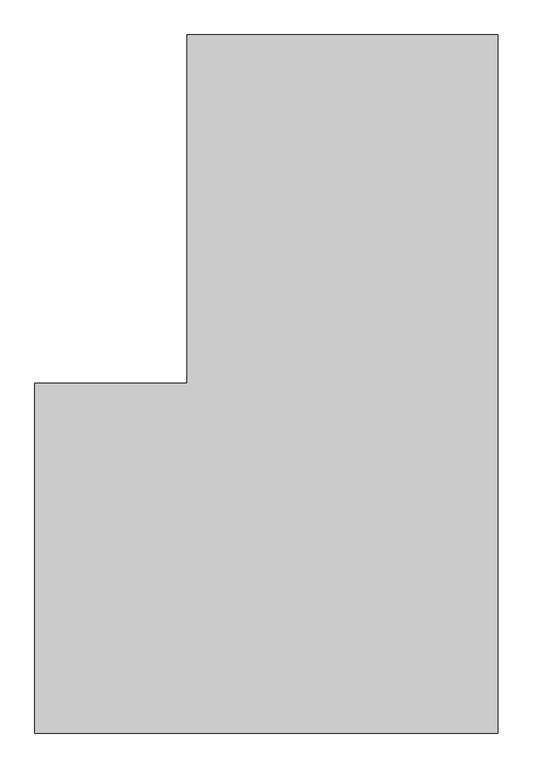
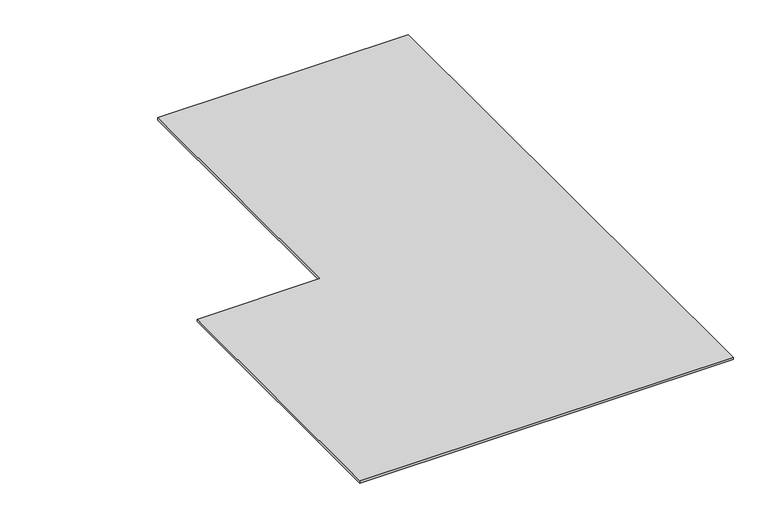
"""IFC4 building model written with IfcOpenShell, lengths in millimetres: proxy geometry, Фиброцементная плита LATONIT окрашенная в массе_1 прямоугольное отверстие : 10 мм."""

from ifc_helpers import new_model, si_unit, frame, origin, place, context, project, spatial, polyline, outline, extrude, source, transform, mapped, element, save


def generic_models_0a732065(model_context):
    return source(origin(), model_context, "Body", "SweptSolid", [
        extrude(outline(polyline([(1500.0, 2260.0), (1500.0, 0.0), (0.0, 0.0), (0.0, 1132.0), (493.5, 1132.0), (493.5, 2260.0), (1500.0, 2260.0)])), frame((0.0, 0.0, 240.0), z_axis=(0.0, 0.0, 1.0), x_axis=(1.0, 0.0, 0.0)), (0.0, 0.0, 1.0), 10.0),
    ])


if __name__ == "__main__":
    model = new_model("IFC4")
    model_context = context("Model", 3, world=origin())
    ifc_project = project(units=[si_unit("LENGTHUNIT", "METRE", prefix="MILLI")], contexts=[model_context])
    site = spatial("IfcSite", under=ifc_project)
    building = spatial("IfcBuilding", under=site)
    placement = place(None, origin())
    generic_models_shape = generic_models_0a732065(model_context)
    element("IfcBuildingElementProxy", 1, Name="Фиброцементная плита LATONIT окрашенная в массе_1 прямоугольное отверстие : 10 мм", ObjectType="Фиброцементная плита LATONIT окрашенная в массе_1 прямоугольное отверстие : 10 мм", at=placement, inside=building, context=model_context, shape_type="MappedRepresentation", body=[
        mapped(generic_models_shape, transform((0.0, 0.0, 0.0), x_axis=(1.0, 0.0, 0.0), y_axis=(0.0, 1.0, 0.0), z_axis=(0.0, 0.0, 1.0))),
    ])
    save(model, "model.ifc")
